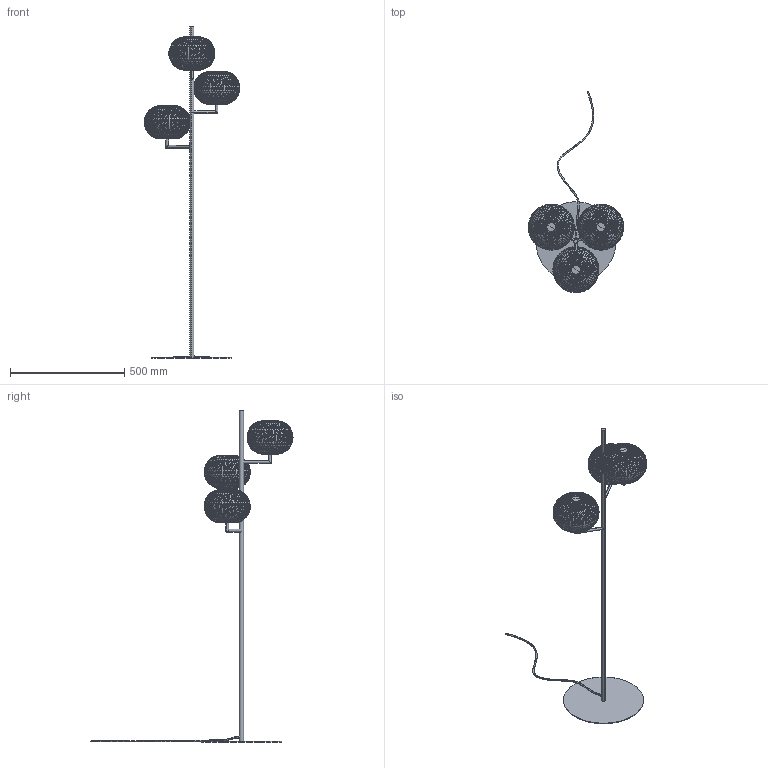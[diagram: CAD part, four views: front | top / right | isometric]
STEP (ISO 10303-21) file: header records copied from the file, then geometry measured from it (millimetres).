
FILE_DESCRIPTION (( 'STEP AP214' ), '1' );
FILE_NAME ('P1353.STEP', '2025-12-17T12:14:13', ( '' ), ( '' ), 'SwSTEP 2.0', 'SolidWorks 2023', '' );
FILE_SCHEMA (( 'AUTOMOTIVE_DESIGN' ));
Length unit declared in the file: millimetre
Products named in the file (3): P1353; Bola
Assembly tree (4 placements, depth 2):
  P1353
    P1353
    Bola  x3
Bounding box: 416.56 x 882.53 x 1450 mm (x, y, z)
Volume: 7130991.8 mm3; surface area: 801745.4 mm2
Topology: 3 solids, 16 shells, 807 faces, 1942 edges, 1290 vertices
Faces by surface type: bspline 758, cylinder 26, plane 17, sphere 6
Entity records: 62820 total; most frequent: CARTESIAN_POINT 58312, ORIENTED_EDGE 1381, EDGE_CURVE 695, VERTEX_POINT 465, B_SPLINE_CURVE_WITH_KNOTS 453, EDGE_LOOP 347, FACE_OUTER_BOUND 299, ADVANCED_FACE 299
